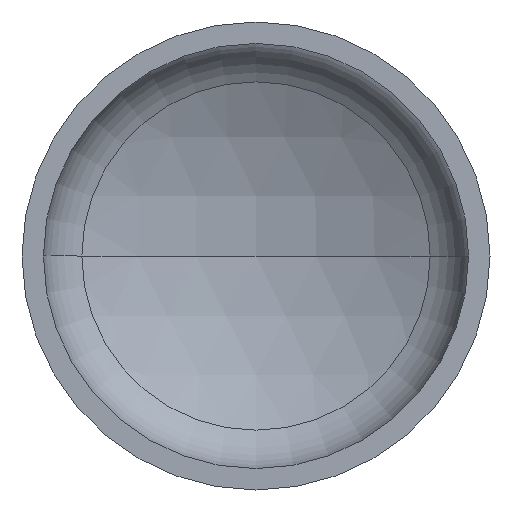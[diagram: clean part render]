
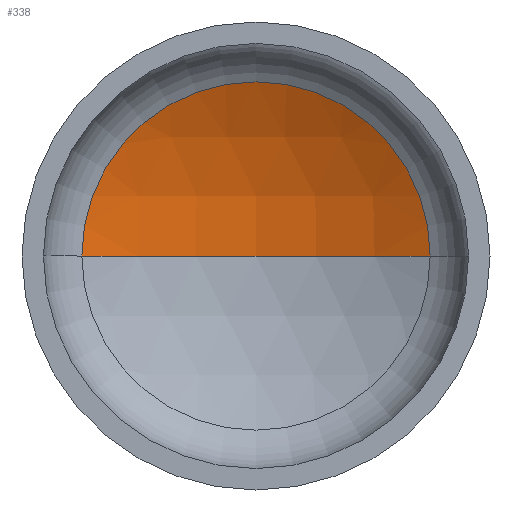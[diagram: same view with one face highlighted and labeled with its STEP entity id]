
A CAD part, front view. The second image highlights one B-rep face of the part: STEP entity #338.
In plain terms, the highlighted spherical face has radius 1120 mm.
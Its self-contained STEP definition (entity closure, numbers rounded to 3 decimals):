
#1 = DIRECTION ( 'NONE',  ( 1., 0., 0. ) ) ;
#4 = DIRECTION ( 'NONE',  ( -1., 0., 0. ) ) ;
#9 = DIRECTION ( 'NONE',  ( 0., 0., -1. ) ) ;
#11 = AXIS2_PLACEMENT_3D ( 'NONE', #61, #91, #350 ) ;
#13 = CARTESIAN_POINT ( 'NONE',  ( 0., -681.114, 0. ) ) ;
#24 = ORIENTED_EDGE ( 'NONE', *, *, #162, .F. ) ;
#25 = CARTESIAN_POINT ( 'NONE',  ( 0., -681.114, 0. ) ) ;
#55 = AXIS2_PLACEMENT_3D ( 'NONE', #25, #240, #267 ) ;
#56 = AXIS2_PLACEMENT_3D ( 'NONE', #13, #9, #4 ) ;
#61 = CARTESIAN_POINT ( 'NONE',  ( 0., -681.114, 0. ) ) ;
#66 = ORIENTED_EDGE ( 'NONE', *, *, #156, .T. ) ;
#70 = AXIS2_PLACEMENT_3D ( 'NONE', #347, #180, #1 ) ;
#86 = VERTEX_POINT ( 'NONE', #198 ) ;
#91 = DIRECTION ( 'NONE',  ( 0., 0., -1. ) ) ;
#107 = VERTEX_POINT ( 'NONE', #208 ) ;
#148 = VERTEX_POINT ( 'NONE', #325 ) ;
#156 = EDGE_CURVE ( 'NONE', #148, #107, #273, .T. ) ;
#158 = EDGE_CURVE ( 'NONE', #86, #148, #343, .T. ) ;
#162 = EDGE_CURVE ( 'NONE', #86, #107, #195, .T. ) ;
#180 = DIRECTION ( 'NONE',  ( 0., -1., 0. ) ) ;
#195 = CIRCLE ( 'NONE', #55, 1120. ) ;
#198 = CARTESIAN_POINT ( 'NONE',  ( 0., 438.886, 0. ) ) ;
#208 = CARTESIAN_POINT ( 'NONE',  ( -521.017, 310.32, 0. ) ) ;
#240 = DIRECTION ( 'NONE',  ( 0., 0., 1. ) ) ;
#267 = DIRECTION ( 'NONE',  ( 1., 0., 0. ) ) ;
#273 = CIRCLE ( 'NONE', #70, 521.017 ) ;
#318 = SPHERICAL_SURFACE ( 'NONE', #11, 1120. ) ;
#325 = CARTESIAN_POINT ( 'NONE',  ( 521.017, 310.32, 0. ) ) ;
#338 = ADVANCED_FACE ( 'NONE', ( #385 ), #318, .F. ) ;
#343 = CIRCLE ( 'NONE', #56, 1120. ) ;
#345 = ORIENTED_EDGE ( 'NONE', *, *, #158, .T. ) ;
#347 = CARTESIAN_POINT ( 'NONE',  ( 0., 310.32, 0. ) ) ;
#350 = DIRECTION ( 'NONE',  ( -1., 0., 0. ) ) ;
#385 = FACE_OUTER_BOUND ( 'NONE', #399, .T. ) ;
#399 = EDGE_LOOP ( 'NONE', ( #24, #345, #66 ) ) ;
